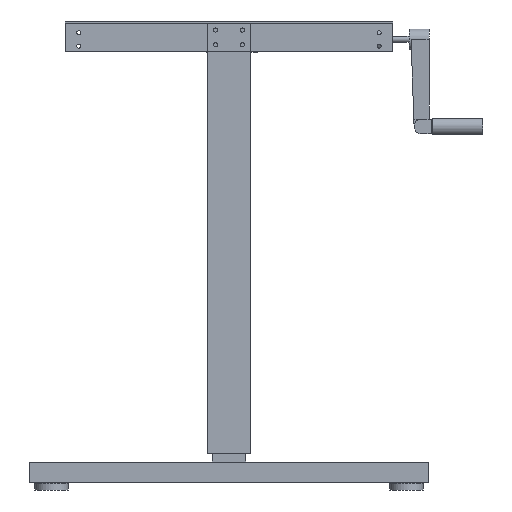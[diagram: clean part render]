
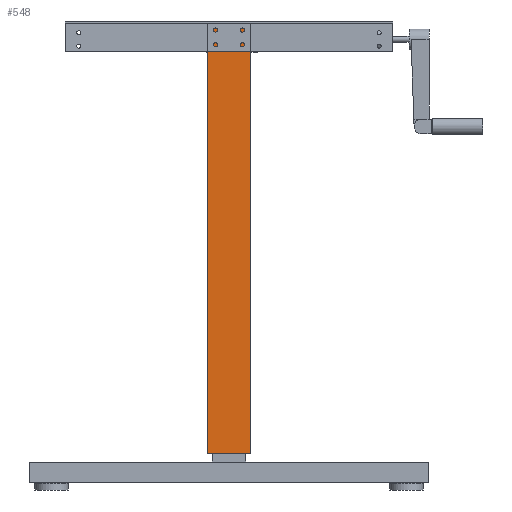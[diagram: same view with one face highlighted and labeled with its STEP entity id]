
A CAD part, left-side view. The second image highlights one B-rep face of the part: STEP entity #548.
In plain terms, the highlighted planar face has unit normal (-1, 0, 0).
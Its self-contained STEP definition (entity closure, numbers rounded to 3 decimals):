
#548 = ADVANCED_FACE( '', ( #1229 ), #1230, .F. );
#1229 = FACE_OUTER_BOUND( '', #2197, .T. );
#1230 = PLANE( '', #2198 );
#2197 = EDGE_LOOP( '', ( #3462, #3463, #3464, #3465 ) );
#2198 = AXIS2_PLACEMENT_3D( '', #3466, #3467, #3468 );
#3462 = ORIENTED_EDGE( '', *, *, #5062, .F. );
#3463 = ORIENTED_EDGE( '', *, *, #5029, .F. );
#3464 = ORIENTED_EDGE( '', *, *, #5197, .F. );
#3465 = ORIENTED_EDGE( '', *, *, #5198, .F. );
#3466 = CARTESIAN_POINT( '', ( -31.75, 0., 0. ) );
#3467 = DIRECTION( '', ( 1., 0., 0. ) );
#3468 = DIRECTION( '', ( 0., 0., -1. ) );
#5029 = EDGE_CURVE( '', #5917, #5919, #5920, .T. );
#5062 = EDGE_CURVE( '', #5919, #5971, #5972, .T. );
#5197 = EDGE_CURVE( '', #6194, #5917, #6195, .T. );
#5198 = EDGE_CURVE( '', #5971, #6194, #6196, .T. );
#5917 = VERTEX_POINT( '', #7149 );
#5919 = VERTEX_POINT( '', #7152 );
#5920 = LINE( '', #7153, #7154 );
#5971 = VERTEX_POINT( '', #7228 );
#5972 = LINE( '', #7229, #7230 );
#6194 = VERTEX_POINT( '', #7515 );
#6195 = LINE( '', #7516, #7517 );
#6196 = LINE( '', #7518, #7519 );
#7149 = CARTESIAN_POINT( '', ( -31.75, -31.75, 658.15 ) );
#7152 = CARTESIAN_POINT( '', ( -31.75, -31.75, 13.15 ) );
#7153 = CARTESIAN_POINT( '', ( -31.75, -31.75, 658.15 ) );
#7154 = VECTOR( '', #8482, 1000. );
#7228 = CARTESIAN_POINT( '', ( -31.75, 31.75, 13.15 ) );
#7229 = CARTESIAN_POINT( '', ( -31.75, 25.05, 13.15 ) );
#7230 = VECTOR( '', #8512, 1000. );
#7515 = CARTESIAN_POINT( '', ( -31.75, 31.75, 658.15 ) );
#7516 = CARTESIAN_POINT( '', ( -31.75, 31.75, 658.15 ) );
#7517 = VECTOR( '', #8687, 1000. );
#7518 = CARTESIAN_POINT( '', ( -31.75, 31.75, 13.15 ) );
#7519 = VECTOR( '', #8688, 1000. );
#8482 = DIRECTION( '', ( 0., 0., -1. ) );
#8512 = DIRECTION( '', ( 0., 1., 0. ) );
#8687 = DIRECTION( '', ( 0., -1., 0. ) );
#8688 = DIRECTION( '', ( 0., 0., 1. ) );
